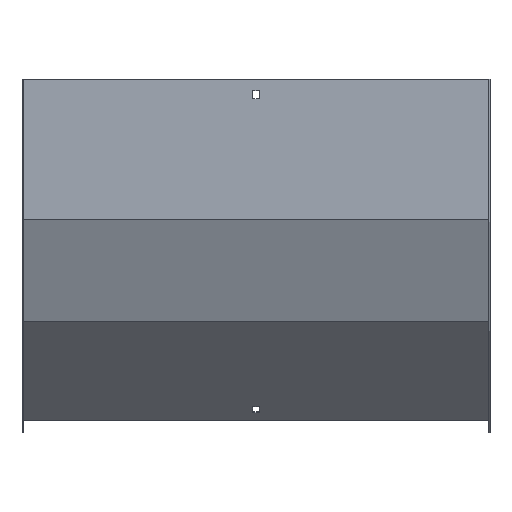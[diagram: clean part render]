
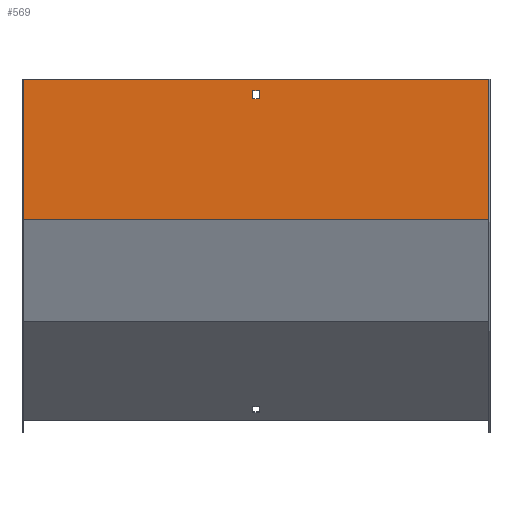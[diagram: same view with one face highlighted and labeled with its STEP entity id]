
A CAD part, front view. The second image highlights one B-rep face of the part: STEP entity #569.
In plain terms, the highlighted planar face has unit normal (0, -1, 0).
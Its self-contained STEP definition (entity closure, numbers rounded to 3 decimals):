
#4 = EDGE_CURVE ( 'NONE', #339, #671, #655, .T. ) ;
#14 = VECTOR ( 'NONE', #321, 1000. ) ;
#18 = EDGE_CURVE ( 'NONE', #270, #666, #700, .T. ) ;
#42 = VECTOR ( 'NONE', #653, 1000. ) ;
#46 = CARTESIAN_POINT ( 'NONE',  ( 251.5, -1.5, -12. ) ) ;
#64 = CARTESIAN_POINT ( 'NONE',  ( -250., -1.5, 0. ) ) ;
#79 = VECTOR ( 'NONE', #502, 1000. ) ;
#88 = CARTESIAN_POINT ( 'NONE',  ( 250., -1.5, 0. ) ) ;
#143 = CARTESIAN_POINT ( 'NONE',  ( -3.25, -1.5, -12. ) ) ;
#146 = CARTESIAN_POINT ( 'NONE',  ( -3.25, -1.5, 0. ) ) ;
#149 = EDGE_CURVE ( 'NONE', #270, #739, #556, .T. ) ;
#174 = ORIENTED_EDGE ( 'NONE', *, *, #733, .F. ) ;
#178 = CARTESIAN_POINT ( 'NONE',  ( 251.5, -1.5, -21. ) ) ;
#194 = VERTEX_POINT ( 'NONE', #143 ) ;
#205 = VECTOR ( 'NONE', #720, 1000. ) ;
#245 = DIRECTION ( 'NONE',  ( 0., 1., 0. ) ) ;
#270 = VERTEX_POINT ( 'NONE', #88 ) ;
#295 = LINE ( 'NONE', #146, #483 ) ;
#315 = CARTESIAN_POINT ( 'NONE',  ( 251.5, -1.5, 0. ) ) ;
#321 = DIRECTION ( 'NONE',  ( 1., 0., 0. ) ) ;
#333 = LINE ( 'NONE', #536, #42 ) ;
#339 = VERTEX_POINT ( 'NONE', #506 ) ;
#359 = VECTOR ( 'NONE', #813, 1000. ) ;
#372 = EDGE_CURVE ( 'NONE', #671, #580, #333, .T. ) ;
#373 = PLANE ( 'NONE',  #489 ) ;
#381 = VERTEX_POINT ( 'NONE', #515 ) ;
#436 = FACE_BOUND ( 'NONE', #643, .T. ) ;
#454 = ORIENTED_EDGE ( 'NONE', *, *, #462, .T. ) ;
#462 = EDGE_CURVE ( 'NONE', #666, #381, #604, .T. ) ;
#468 = CARTESIAN_POINT ( 'NONE',  ( -250., -1.5, 0. ) ) ;
#477 = ORIENTED_EDGE ( 'NONE', *, *, #372, .F. ) ;
#483 = VECTOR ( 'NONE', #806, 1000. ) ;
#484 = ORIENTED_EDGE ( 'NONE', *, *, #18, .T. ) ;
#489 = AXIS2_PLACEMENT_3D ( 'NONE', #688, #245, #512 ) ;
#499 = CARTESIAN_POINT ( 'NONE',  ( 250., -1.5, -150.098 ) ) ;
#502 = DIRECTION ( 'NONE',  ( -1., 0., 0. ) ) ;
#506 = CARTESIAN_POINT ( 'NONE',  ( -3.25, -1.5, -21. ) ) ;
#512 = DIRECTION ( 'NONE',  ( 0., 0., 1. ) ) ;
#515 = CARTESIAN_POINT ( 'NONE',  ( -250., -1.5, -150.098 ) ) ;
#536 = CARTESIAN_POINT ( 'NONE',  ( 3.25, -1.5, 0. ) ) ;
#553 = ORIENTED_EDGE ( 'NONE', *, *, #4, .F. ) ;
#556 = LINE ( 'NONE', #734, #359 ) ;
#562 = CARTESIAN_POINT ( 'NONE',  ( 251.5, -1.5, -150.098 ) ) ;
#569 = ADVANCED_FACE ( 'NONE', ( #824, #436 ), #373, .F. ) ;
#570 = DIRECTION ( 'NONE',  ( -1., 0., 0. ) ) ;
#574 = CARTESIAN_POINT ( 'NONE',  ( 3.25, -1.5, -12. ) ) ;
#580 = VERTEX_POINT ( 'NONE', #574 ) ;
#581 = EDGE_LOOP ( 'NONE', ( #454, #827, #648, #484 ) ) ;
#587 = DIRECTION ( 'NONE',  ( -1., 0., 0. ) ) ;
#604 = LINE ( 'NONE', #468, #205 ) ;
#609 = EDGE_CURVE ( 'NONE', #194, #339, #295, .T. ) ;
#612 = VECTOR ( 'NONE', #570, 1000. ) ;
#622 = LINE ( 'NONE', #46, #79 ) ;
#643 = EDGE_LOOP ( 'NONE', ( #477, #553, #748, #174 ) ) ;
#648 = ORIENTED_EDGE ( 'NONE', *, *, #149, .F. ) ;
#653 = DIRECTION ( 'NONE',  ( 0., 0., 1. ) ) ;
#655 = LINE ( 'NONE', #178, #14 ) ;
#666 = VERTEX_POINT ( 'NONE', #64 ) ;
#671 = VERTEX_POINT ( 'NONE', #769 ) ;
#688 = CARTESIAN_POINT ( 'NONE',  ( 251.5, -1.5, 0. ) ) ;
#700 = LINE ( 'NONE', #315, #803 ) ;
#720 = DIRECTION ( 'NONE',  ( 0., 0., -1. ) ) ;
#733 = EDGE_CURVE ( 'NONE', #580, #194, #622, .T. ) ;
#734 = CARTESIAN_POINT ( 'NONE',  ( 250., -1.5, 0. ) ) ;
#739 = VERTEX_POINT ( 'NONE', #499 ) ;
#748 = ORIENTED_EDGE ( 'NONE', *, *, #609, .F. ) ;
#763 = LINE ( 'NONE', #562, #612 ) ;
#769 = CARTESIAN_POINT ( 'NONE',  ( 3.25, -1.5, -21. ) ) ;
#788 = EDGE_CURVE ( 'NONE', #739, #381, #763, .T. ) ;
#803 = VECTOR ( 'NONE', #587, 1000. ) ;
#806 = DIRECTION ( 'NONE',  ( 0., 0., -1. ) ) ;
#813 = DIRECTION ( 'NONE',  ( 0., 0., -1. ) ) ;
#824 = FACE_OUTER_BOUND ( 'NONE', #581, .T. ) ;
#827 = ORIENTED_EDGE ( 'NONE', *, *, #788, .F. ) ;
